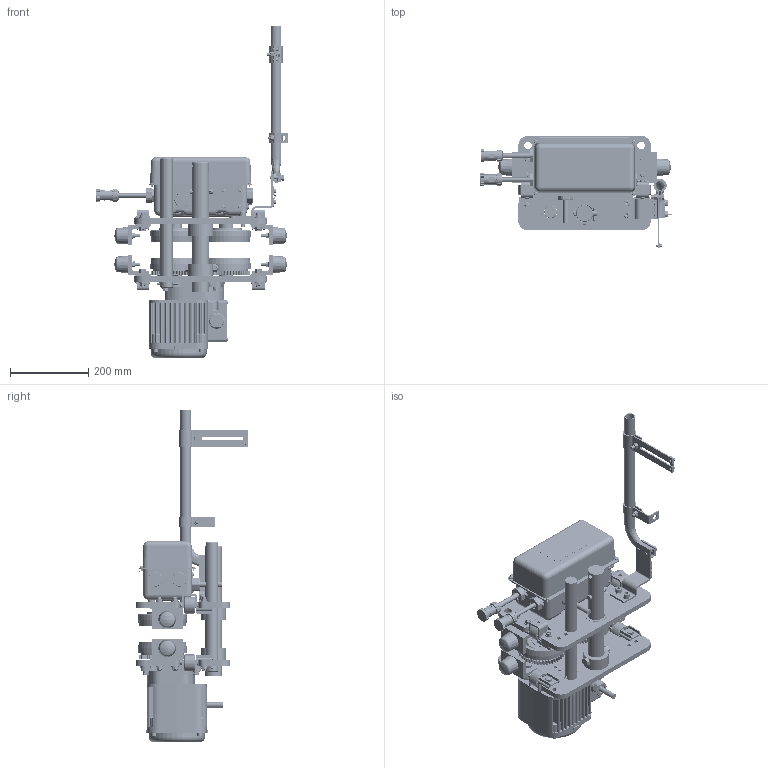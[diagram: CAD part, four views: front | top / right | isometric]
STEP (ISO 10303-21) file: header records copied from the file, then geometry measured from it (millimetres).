
FILE_DESCRIPTION (( 'STEP AP214' ), '1' );
FILE_NAME ('MR030L.STEP', '2026-08-06T13:16:48', ( '' ), ( '' ), 'SwSTEP 2.0', 'SolidWorks 2026', '' );
FILE_SCHEMA (( 'AUTOMOTIVE_DESIGN' ));
Length unit declared in the file: inch
Products named in the file (94): MS006020; MR1DS1481; ECP5924AC1; MR1FS9205; M6F554010; MR2DS1759; MR1FS5201; ES558003; MR1DS9248; E6F151003; MR1DS9492; MR1FS9203; MR1DS9411; hex nut style 1_am_9093424; MR2SHM10S9A8; MR1FS9631; MR1DS9481; MR1DS9325; MR2DS2811; socket head cap screw_am_9091295; M7SE020S91422; 16-6P (MR2); MR1DS9401_1 - 8 TON & 10 L TON; T3P153050; MR1FS9202; ECP2304AD; basic internal retaining ring_am_B27.7M - 3BM1-60; MR1FS9204; MR1DS9496; ECP5924AD1; 90912134; MS162030_MS162030; MR1DS9324; M6SE030S9102; MR1DS1301; MS517010; MS527010; single coil rectangular section spring washer_bsi_9012711; 9009446_9009446; MR1ES92151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
Assembly tree (232 placements, depth 5):
  MR030L
    MR1FS5201
      MR1FS9201
      MR1FS9203  x2
      MR1FS9204
    MR1FS5202
      MR1FS9202
      MR1FS9203  x2
      MR1FS9205
    MS1101030  x2
      M6SE030S9101
      basic internal retaining ring_am_B27.7M - 3BM1-60
      J1GR020-0630
    MS1102030  x2
      M6SE030S9102
      basic internal retaining ring_am_B27.7M - 3BM1-60
      J1GR020-0630
    MR1ES9634  x4
    MS006020  x4
    MR1ES12112  x2
      M7SE020S91422
      J1PS31-050025
      MR1ES22111
      MR2DS92171
      MR1ES92151
      MR1ES9218
    MR1ES12112_Reversed  x2
      M7SE020S91422
      J1PS31-050025
      MR1ES22111
      MR2DS92171
      MR1ES92151
      MR1ES9218
    MR1FS9631  x4
    single coil rectangular section spring washer_bsi_9012711  x8
    hex nut style 1_am_9093424  x16
    9093351_9093351  x4
    spring lock washer_2_jis_9012712  x14
    9093352_9093352  x8
    9047125_B27.7M - 3AM1-23  x4
    70130XX_for (N)ERM (7013002)
      MR1DS9411
      MR1DS9401_1 - 8 TON & 10 L TON
      MR1DS9421
      MS554010  x12
      MR2DS2811
        ECP5924AH
        MS527010
        MR2DI1811
        ES558003  x4
      MS517010  x4
      MS551010  x4
      MR2DS1768
        60704
          ECP5924AA1
          ECP5924AD1
          ECP5924AC1
          KITO-WASHER
          ECP5924AB1
        16-6P (MR2)
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Bounding box: 489.68 x 288.45 x 851.1 mm (x, y, z)
Volume: 7818208.9 mm3; surface area: 2227231.8 mm2
Topology: 261 solids, 277 shells, 9339 faces, 24815 edges, 16268 vertices
Faces by surface type: plane 4585, cylinder 2583, cone 1015, bspline 688, torus 364, sphere 104
Entity records: 203877 total; most frequent: CARTESIAN_POINT 80952, ORIENTED_EDGE 25526, DIRECTION 23265, EDGE_CURVE 12765, VERTEX_POINT 8514, AXIS2_PLACEMENT_3D 8396, LINE 6473, VECTOR 6473
